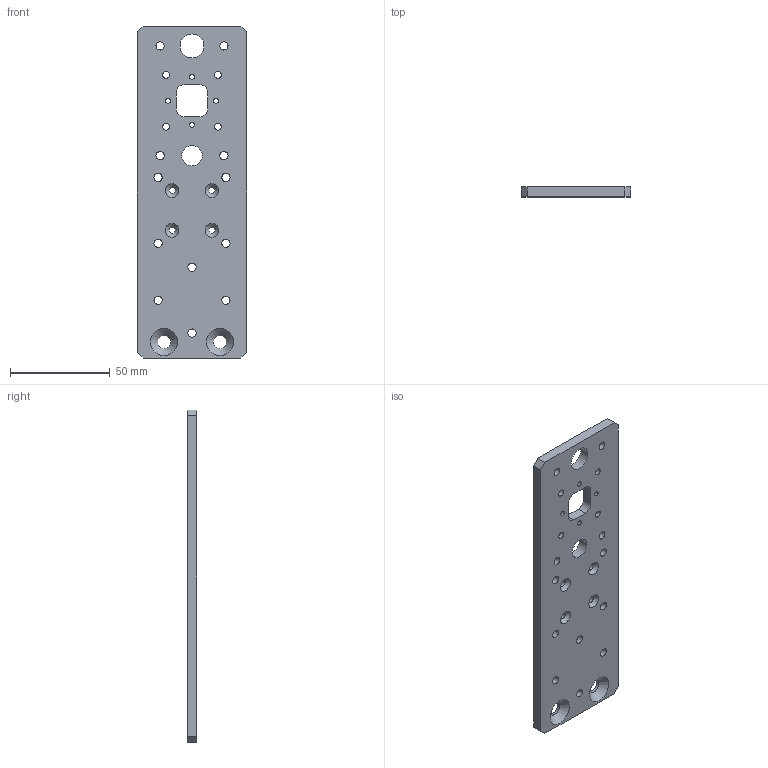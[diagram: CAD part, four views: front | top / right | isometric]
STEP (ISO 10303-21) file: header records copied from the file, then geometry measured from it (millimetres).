
FILE_DESCRIPTION(/* description */ ('x_side_plate_moving'),/* implementation_level */ '2;1');
FILE_NAME(/* name */ '08_x_side_plate_moving_x4.step',/* time_stamp */ '2026-10-27T16:17:52+01:00',/* author */ (''),/* organization */ (''),/* preprocessor_version */ 'ST-DEVELOPER v20.2',/* originating_system */ 'Autodesk Translation Framework v15.17.0.0',/* authorisation */ '');
FILE_SCHEMA (('AUTOMOTIVE_DESIGN { 1 0 10303 214 3 1 1 }'));
Length unit declared in the file: millimetre
Products named in the file (1): 2026-10-27-16-17-51-953
Bounding box: 55 x 5 x 166.5 mm (x, y, z)
Volume: 41473.4 mm3; surface area: 21061.6 mm2
Topology: 1 solids, 1 shells, 52 faces, 150 edges, 100 vertices
Faces by surface type: cylinder 32, plane 14, cone 6
Full cylindrical faces by diameter (mm): 2.459 x4, 3.2 x4, 3.4 x4, 4.134 x12, 6.6 x2, 10.2 x1, 12 x1
Entity records: 1965 total; most frequent: DIRECTION 332, CARTESIAN_POINT 303, ORIENTED_EDGE 300, EDGE_CURVE 150, AXIS2_PLACEMENT_3D 129, EDGE_LOOP 110, VERTEX_POINT 100, CIRCLE 76
